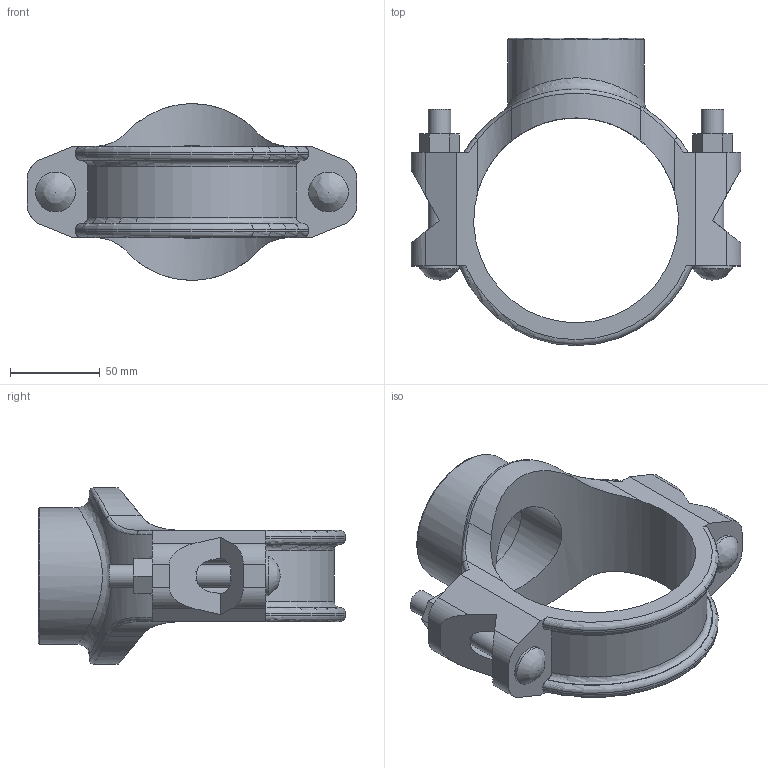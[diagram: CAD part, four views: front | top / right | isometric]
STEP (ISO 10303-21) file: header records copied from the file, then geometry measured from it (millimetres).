
FILE_DESCRIPTION(/* description */ ('VIC SS MECHANICAL T BRANCH OUTLET STYLE 422 (BSPT)','CAx-IF Rec.Pracs.---Representation and Presentation of Product Manufacturing Information (PMI)---4.0---2014-10-13'),/* implementation_level */ '2;1');
FILE_NAME(/* name */ 'C:\Files for Export\422\STEP\Victaulic_SS-OGS_Mech-Tee Out_Style 422 (BSPT)\Victaulic_SS-OGS_Mech-Tee Out_Style 422 (BSPT)_04.0x02.0 (100x50).stp',/* time_stamp */ '2023-03-28T14:26:46+02:00',/* author */ ('jheald'),/* organization */ ('Victaulic'),/* preprocessor_version */ 'ST-DEVELOPER v18.1',/* originating_system */ 'Autodesk Inventor 2020',/* authorisation */ '');
FILE_SCHEMA (('AP242_MANAGED_MODEL_BASED_3D_ENGINEERING_MIM_LF { 1 0 10303 442 1 1 4 }'));
Length unit declared in the file: inch
Products named in the file (1): 422-04.0x02.0
Bounding box: 184.15 x 171.45 x 98.55 mm (x, y, z)
Volume: 431617.1 mm3; surface area: 92998.1 mm2
Topology: 1 solids, 1 shells, 102 faces, 296 edges, 196 vertices
Faces by surface type: plane 48, cylinder 34, torus 11, bspline 9
Full cylindrical faces by diameter (mm): 12.7 x4, 22.225 x2, 52.387 x1, 60.325 x1, 76.2 x1, 114.3 x1
Entity records: 4384 total; most frequent: CARTESIAN_POINT 1462, ORIENTED_EDGE 588, DIRECTION 572, EDGE_CURVE 294, AXIS2_PLACEMENT_3D 210, VERTEX_POINT 196, LINE 152, VECTOR 152
